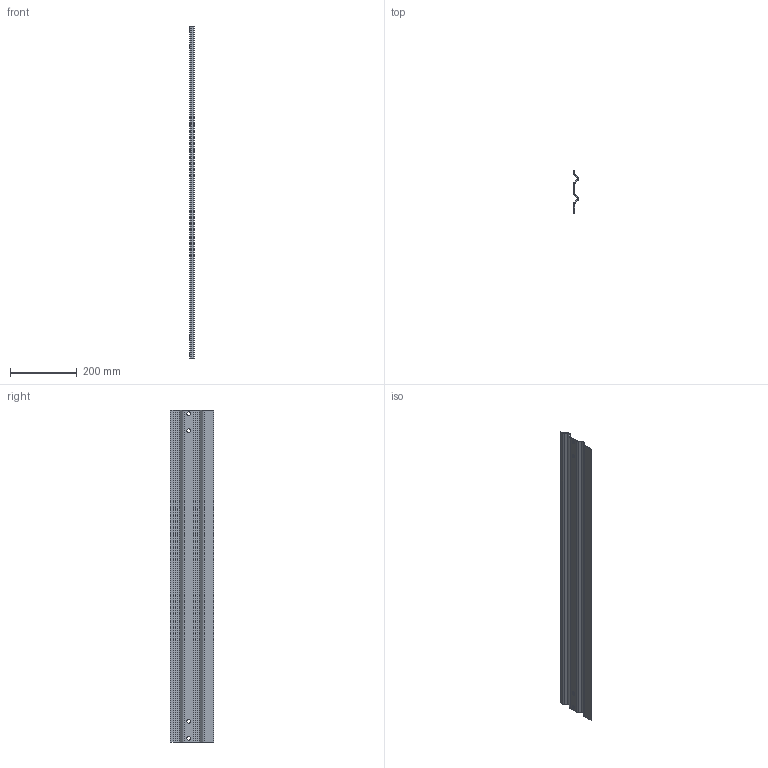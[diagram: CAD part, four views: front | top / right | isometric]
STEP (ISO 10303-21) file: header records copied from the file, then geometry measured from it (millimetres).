
FILE_DESCRIPTION((''),'2;1');
FILE_NAME('S:\Användarkataloger\AndreasA\Mina Inventor filer\Räcken\STEP\sparklist_k130_modul_1000.stp','2010-09-07T13:49:39',('AndreasA'),(''),'Autodesk Inventor 2011','Autodesk Inventor 2011','');
FILE_SCHEMA(('AUTOMOTIVE_DESIGN { 1 0 10303 214 1 1 1 1 }'));
Length unit declared in the file: millimetre
Products named in the file (1): sparklist_k130_modul_1000
Bounding box: 13.47 x 130 x 996 mm (x, y, z)
Volume: 362773.8 mm3; surface area: 296275 mm2
Topology: 1 solids, 1 shells, 34 faces, 100 edges, 68 vertices
Faces by surface type: plane 18, cylinder 16
Full cylindrical faces by diameter (mm): 11 x4
Entity records: 1134 total; most frequent: DIRECTION 194, CARTESIAN_POINT 191, ORIENTED_EDGE 184, EDGE_CURVE 92, AXIS2_PLACEMENT_3D 67, VERTEX_POINT 64, VECTOR 60, LINE 60
